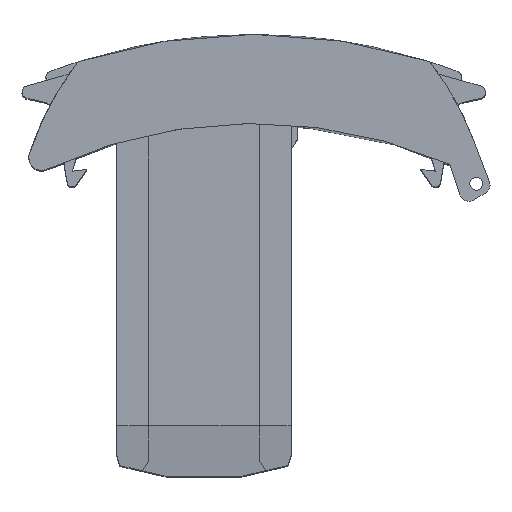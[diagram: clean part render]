
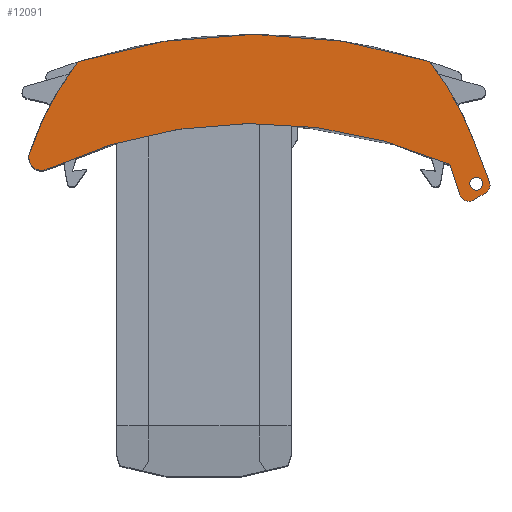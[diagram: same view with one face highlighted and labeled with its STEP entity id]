
A CAD part, top view. The second image highlights one B-rep face of the part: STEP entity #12091.
In plain terms, the highlighted planar face has unit normal (0, 0, 1).
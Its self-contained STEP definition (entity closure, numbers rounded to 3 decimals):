
#254=CARTESIAN_POINT('',(30.773,-6.399,89.65));
#255=VERTEX_POINT('',#254);
#262=CARTESIAN_POINT('',(-32.503,-7.176,89.65));
#263=VERTEX_POINT('',#262);
#264=CARTESIAN_POINT('',(0.,-77.2,89.65));
#265=DIRECTION('',(0.,-0.,1.));
#266=DIRECTION('',(-1.,-0.,0.));
#267=AXIS2_PLACEMENT_3D('',#264,#265,#266);
#268=CIRCLE('',#267,77.2);
#269=EDGE_CURVE('',#255,#263,#268,.T.);
#1375=CARTESIAN_POINT('',(-27.591,9.726,89.65));
#1376=VERTEX_POINT('',#1375);
#1383=CARTESIAN_POINT('',(27.591,9.726,89.65));
#1384=VERTEX_POINT('',#1383);
#1385=CARTESIAN_POINT('',(-0.,-77.2,89.65));
#1386=DIRECTION('',(-0.,0.,-1.));
#1387=DIRECTION('',(1.,0.,-0.));
#1388=AXIS2_PLACEMENT_3D('',#1385,#1386,#1387);
#1389=CIRCLE('',#1388,91.2);
#1390=EDGE_CURVE('',#1376,#1384,#1389,.T.);
#11976=CARTESIAN_POINT('',(33.937,-9.473,89.65));
#11977=VERTEX_POINT('',#11976);
#11986=CARTESIAN_POINT('',(34.937,-9.473,89.65));
#11987=DIRECTION('',(-0.,0.,-1.));
#11988=DIRECTION('',(-1.,-0.,0.));
#11989=AXIS2_PLACEMENT_3D('',#11986,#11987,#11988);
#11990=CIRCLE('',#11989,1.);
#11991=EDGE_CURVE('',#11977,#11977,#11990,.T.);
#11996=CARTESIAN_POINT('',(28.565,3.501,89.65));
#11997=DIRECTION('',(-0.,0.,-1.));
#11998=DIRECTION('',(-1.,-0.,0.));
#11999=AXIS2_PLACEMENT_3D('',#11996,#11997,#11998);
#12000=PLANE('',#11999);
#12001=CARTESIAN_POINT('',(34.405,-2.352,89.65));
#12002=VERTEX_POINT('',#12001);
#12003=CARTESIAN_POINT('',(37.,-9.132,89.65));
#12004=VERTEX_POINT('',#12003);
#12005=CARTESIAN_POINT('',(34.405,-2.352,89.65));
#12006=DIRECTION('',(0.357,-0.934,-0.));
#12007=VECTOR('',#12006,7.26);
#12008=LINE('',#12005,#12007);
#12009=EDGE_CURVE('',#12002,#12004,#12008,.T.);
#12010=ORIENTED_EDGE('',*,*,#12009,.F.);
#12011=CARTESIAN_POINT('',(-9.49,-19.153,89.65));
#12012=DIRECTION('',(-0.,0.,-1.));
#12013=DIRECTION('',(-1.,-0.,0.));
#12014=AXIS2_PLACEMENT_3D('',#12011,#12012,#12013);
#12015=CIRCLE('',#12014,47.);
#12016=EDGE_CURVE('',#1384,#12002,#12015,.T.);
#12017=ORIENTED_EDGE('',*,*,#12016,.F.);
#12018=ORIENTED_EDGE('',*,*,#1390,.F.);
#12019=CARTESIAN_POINT('',(-35.249,-4.749,89.65));
#12020=VERTEX_POINT('',#12019);
#12021=CARTESIAN_POINT('',(9.49,-19.153,89.65));
#12022=DIRECTION('',(0.,-0.,1.));
#12023=DIRECTION('',(1.,0.,-0.));
#12024=AXIS2_PLACEMENT_3D('',#12021,#12022,#12023);
#12025=CIRCLE('',#12024,47.);
#12026=EDGE_CURVE('',#1376,#12020,#12025,.T.);
#12027=ORIENTED_EDGE('',*,*,#12026,.T.);
#12028=CARTESIAN_POINT('',(-35.345,-5.362,89.65));
#12029=VERTEX_POINT('',#12028);
#12030=CARTESIAN_POINT('',(-33.345,-5.362,89.65));
#12031=DIRECTION('',(0.,-0.,1.));
#12032=DIRECTION('',(1.,0.,-0.));
#12033=AXIS2_PLACEMENT_3D('',#12030,#12031,#12032);
#12034=CIRCLE('',#12033,2.);
#12035=EDGE_CURVE('',#12020,#12029,#12034,.T.);
#12036=ORIENTED_EDGE('',*,*,#12035,.T.);
#12037=CARTESIAN_POINT('',(-33.345,-5.362,89.65));
#12038=DIRECTION('',(0.,-0.,1.));
#12039=DIRECTION('',(1.,0.,-0.));
#12040=AXIS2_PLACEMENT_3D('',#12037,#12038,#12039);
#12041=CIRCLE('',#12040,2.);
#12042=EDGE_CURVE('',#12029,#263,#12041,.T.);
#12043=ORIENTED_EDGE('',*,*,#12042,.T.);
#12044=ORIENTED_EDGE('',*,*,#269,.F.);
#12045=CARTESIAN_POINT('',(32.343,-11.192,89.65));
#12046=VERTEX_POINT('',#12045);
#12047=CARTESIAN_POINT('',(32.343,-11.192,89.65));
#12048=DIRECTION('',(-0.311,0.95,0.));
#12049=VECTOR('',#12048,5.044);
#12050=LINE('',#12047,#12049);
#12051=EDGE_CURVE('',#12046,#255,#12050,.T.);
#12052=ORIENTED_EDGE('',*,*,#12051,.F.);
#12053=CARTESIAN_POINT('',(34.518,-12.024,89.65));
#12054=VERTEX_POINT('',#12053);
#12055=CARTESIAN_POINT('',(33.768,-10.725,89.65));
#12056=DIRECTION('',(-0.,0.,-1.));
#12057=DIRECTION('',(-1.,-0.,0.));
#12058=AXIS2_PLACEMENT_3D('',#12055,#12056,#12057);
#12059=CIRCLE('',#12058,1.5);
#12060=EDGE_CURVE('',#12054,#12046,#12059,.T.);
#12061=ORIENTED_EDGE('',*,*,#12060,.F.);
#12062=CARTESIAN_POINT('',(36.349,-10.967,89.65));
#12063=VERTEX_POINT('',#12062);
#12064=CARTESIAN_POINT('',(36.349,-10.967,89.65));
#12065=DIRECTION('',(-0.866,-0.5,0.));
#12066=VECTOR('',#12065,2.114);
#12067=LINE('',#12064,#12066);
#12068=EDGE_CURVE('',#12063,#12054,#12067,.T.);
#12069=ORIENTED_EDGE('',*,*,#12068,.F.);
#12070=CARTESIAN_POINT('',(37.099,-9.668,89.65));
#12071=VERTEX_POINT('',#12070);
#12072=CARTESIAN_POINT('',(35.599,-9.668,89.65));
#12073=DIRECTION('',(-0.,0.,-1.));
#12074=DIRECTION('',(-1.,-0.,0.));
#12075=AXIS2_PLACEMENT_3D('',#12072,#12073,#12074);
#12076=CIRCLE('',#12075,1.5);
#12077=EDGE_CURVE('',#12071,#12063,#12076,.T.);
#12078=ORIENTED_EDGE('',*,*,#12077,.F.);
#12079=CARTESIAN_POINT('',(35.599,-9.668,89.65));
#12080=DIRECTION('',(-0.,0.,-1.));
#12081=DIRECTION('',(-1.,-0.,0.));
#12082=AXIS2_PLACEMENT_3D('',#12079,#12080,#12081);
#12083=CIRCLE('',#12082,1.5);
#12084=EDGE_CURVE('',#12004,#12071,#12083,.T.);
#12085=ORIENTED_EDGE('',*,*,#12084,.F.);
#12086=EDGE_LOOP('',(#12010,#12017,#12018,#12027,#12036,#12043,#12044,#12052,#12061,#12069,#12078,#12085));
#12087=FACE_BOUND('',#12086,.T.);
#12088=ORIENTED_EDGE('',*,*,#11991,.T.);
#12089=EDGE_LOOP('',(#12088));
#12090=FACE_BOUND('',#12089,.T.);
#12091=ADVANCED_FACE('',(#12087,#12090),#12000,.F.);
